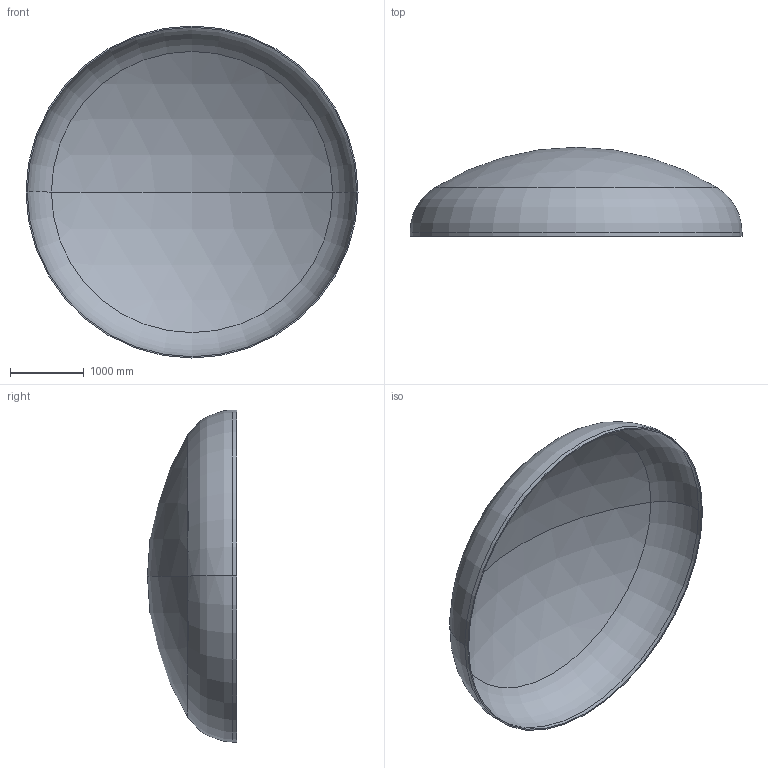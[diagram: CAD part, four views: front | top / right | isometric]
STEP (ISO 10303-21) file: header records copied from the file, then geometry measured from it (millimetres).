
FILE_DESCRIPTION (( 'STEP AP203' ), '1' );
FILE_NAME ('DIN 28013 Korbbogenform_-_Boden DIN 28013 - 4500 x 55 - I - s=17.step', '2016-07-01T23:06:39', ( '' ), ( '' ), 'SwSTEP 2.0', 'SolidWorks 2013', '' );
FILE_SCHEMA (( 'CONFIG_CONTROL_DESIGN' ));
Length unit declared in the file: millimetre
Products named in the file (1): DIN 28013 Korbbogenform_-_Boden DIN 28013 - 4500 x 55 - I - s=17
Bounding box: 4500 x 1207.54 x 4500 mm (x, y, z)
Volume: 385995672.4 mm3; surface area: 45651266.5 mm2
Topology: 1 solids, 1 shells, 13 faces, 24 edges, 14 vertices
Faces by surface type: torus 4, cylinder 4, sphere 4, plane 1
Entity records: 407 total; most frequent: DIRECTION 72, CARTESIAN_POINT 52, ORIENTED_EDGE 48, AXIS2_PLACEMENT_3D 34, EDGE_CURVE 24, CIRCLE 20, VERTEX_POINT 14, EDGE_LOOP 14
